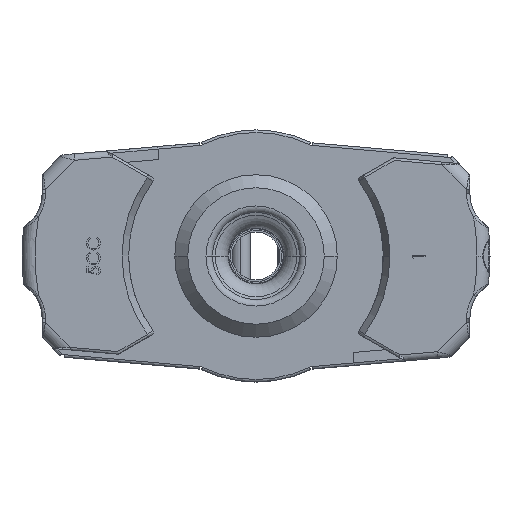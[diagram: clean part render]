
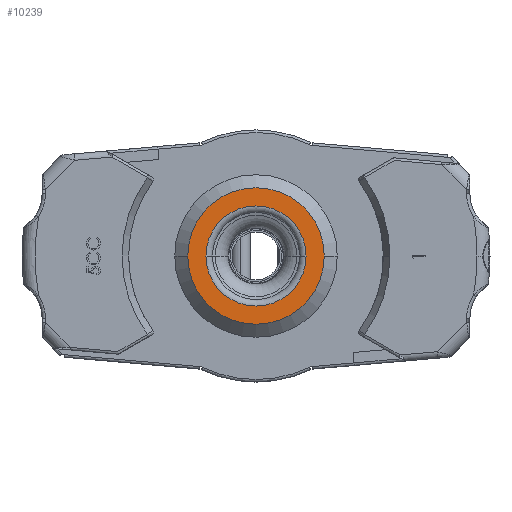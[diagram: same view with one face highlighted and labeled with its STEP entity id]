
A CAD part, front view. The second image highlights one B-rep face of the part: STEP entity #10239.
In plain terms, the highlighted planar face has unit normal (0, -1, 0).
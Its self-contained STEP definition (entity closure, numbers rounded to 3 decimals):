
#494 = CIRCLE ( 'NONE', #15927, 3.85 ) ;
#1350 = FACE_BOUND ( 'NONE', #6977, .T. ) ;
#1744 = VERTEX_POINT ( 'NONE', #18478 ) ;
#2027 = CARTESIAN_POINT ( 'NONE',  ( -18., 0., 5. ) ) ;
#2278 = CARTESIAN_POINT ( 'NONE',  ( -12.75, 0., 5. ) ) ;
#2468 = AXIS2_PLACEMENT_3D ( 'NONE', #22217, #5757, #20542 ) ;
#2919 = CIRCLE ( 'NONE', #2468, 5.25 ) ;
#2964 = ORIENTED_EDGE ( 'NONE', *, *, #8843, .T. ) ;
#3824 = DIRECTION ( 'NONE',  ( 1., 0., 0. ) ) ;
#4463 = CIRCLE ( 'NONE', #22091, 5.25 ) ;
#4987 = EDGE_CURVE ( 'NONE', #16057, #1744, #494, .T. ) ;
#5078 = DIRECTION ( 'NONE',  ( 1., 0., 0. ) ) ;
#5757 = DIRECTION ( 'NONE',  ( 0., -1., 0. ) ) ;
#6095 = EDGE_LOOP ( 'NONE', ( #19099, #22553 ) ) ;
#6469 = AXIS2_PLACEMENT_3D ( 'NONE', #16530, #27044, #3824 ) ;
#6977 = EDGE_LOOP ( 'NONE', ( #2964, #26572 ) ) ;
#7268 = AXIS2_PLACEMENT_3D ( 'NONE', #14908, #21147, #21566 ) ;
#8491 = VERTEX_POINT ( 'NONE', #2278 ) ;
#8758 = CARTESIAN_POINT ( 'NONE',  ( -18., 0., 5. ) ) ;
#8843 = EDGE_CURVE ( 'NONE', #1744, #16057, #23606, .T. ) ;
#10239 = ADVANCED_FACE ( 'NONE', ( #22337, #1350 ), #18197, .T. ) ;
#10858 = CARTESIAN_POINT ( 'NONE',  ( -21.85, 0., 5. ) ) ;
#11881 = CARTESIAN_POINT ( 'NONE',  ( -23.25, 0., 5. ) ) ;
#12508 = DIRECTION ( 'NONE',  ( 1., 0., 0. ) ) ;
#14908 = CARTESIAN_POINT ( 'NONE',  ( -18., 0., 5. ) ) ;
#15927 = AXIS2_PLACEMENT_3D ( 'NONE', #2027, #16526, #12508 ) ;
#16057 = VERTEX_POINT ( 'NONE', #10858 ) ;
#16526 = DIRECTION ( 'NONE',  ( 0., 1., 0. ) ) ;
#16530 = CARTESIAN_POINT ( 'NONE',  ( -18., 0., -1.25 ) ) ;
#17784 = DIRECTION ( 'NONE',  ( 0., -1., 0. ) ) ;
#17811 = EDGE_CURVE ( 'NONE', #23917, #8491, #2919, .T. ) ;
#18197 = PLANE ( 'NONE',  #6469 ) ;
#18478 = CARTESIAN_POINT ( 'NONE',  ( -14.15, 0., 5. ) ) ;
#19099 = ORIENTED_EDGE ( 'NONE', *, *, #17811, .T. ) ;
#20542 = DIRECTION ( 'NONE',  ( 1., 0., 0. ) ) ;
#21147 = DIRECTION ( 'NONE',  ( 0., 1., 0. ) ) ;
#21566 = DIRECTION ( 'NONE',  ( 1., 0., 0. ) ) ;
#22091 = AXIS2_PLACEMENT_3D ( 'NONE', #8758, #17784, #5078 ) ;
#22217 = CARTESIAN_POINT ( 'NONE',  ( -18., 0., 5. ) ) ;
#22337 = FACE_OUTER_BOUND ( 'NONE', #6095, .T. ) ;
#22553 = ORIENTED_EDGE ( 'NONE', *, *, #24432, .T. ) ;
#23606 = CIRCLE ( 'NONE', #7268, 3.85 ) ;
#23917 = VERTEX_POINT ( 'NONE', #11881 ) ;
#24432 = EDGE_CURVE ( 'NONE', #8491, #23917, #4463, .T. ) ;
#26572 = ORIENTED_EDGE ( 'NONE', *, *, #4987, .T. ) ;
#27044 = DIRECTION ( 'NONE',  ( 0., -1., 0. ) ) ;
